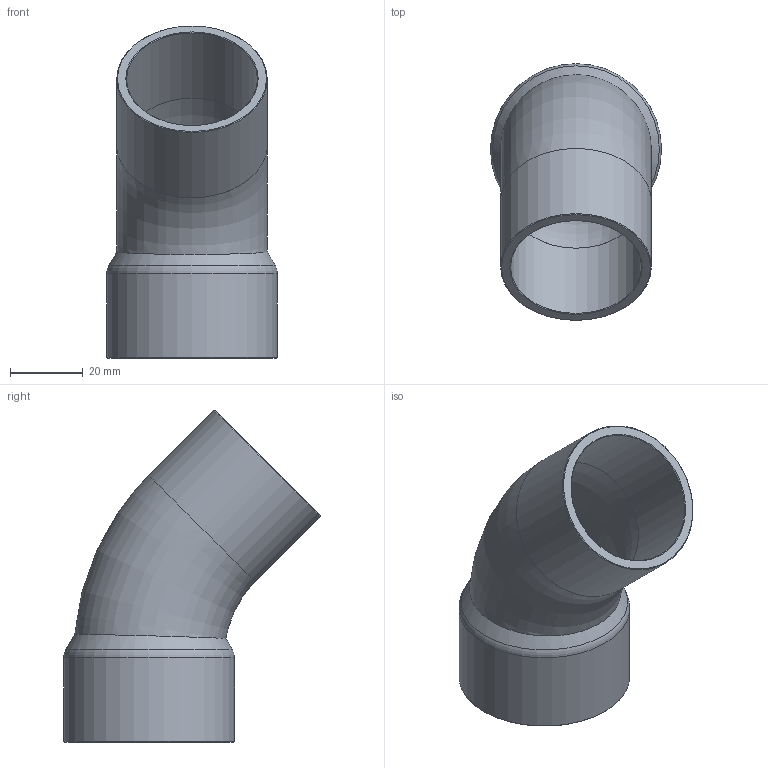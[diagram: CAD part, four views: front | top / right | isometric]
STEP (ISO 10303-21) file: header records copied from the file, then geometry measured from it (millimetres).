
FILE_DESCRIPTION((''),'2;1');
FILE_NAME('G:\SANHA-Ternat\Technik\Management\Bouwmaten + markeringen\z-maattekeningen 3D\29000s\29040158_3d.stp','2017-07-26T14:33:04',('vdvijverd'),(''),'Autodesk Inventor 2009','Autodesk Inventor 2009','');
FILE_SCHEMA(('AUTOMOTIVE_DESIGN { 1 0 10303 214 1 1 1 1 }'));
Length unit declared in the file: millimetre
Products named in the file (1): 29040158_3d
Bounding box: 46.85 x 70.41 x 90.98 mm (x, y, z)
Volume: 30229.6 mm3; surface area: 23040 mm2
Topology: 1 solids, 1 shells, 18 faces, 34 edges, 20 vertices
Faces by surface type: cone 6, plane 4, cylinder 4, torus 3, bspline 1
Full cylindrical faces by diameter (mm): 35.875 x1, 41.275 x1, 41.455 x1, 46.855 x1
Entity records: 504 total; most frequent: CARTESIAN_POINT 175, DIRECTION 68, ORIENTED_EDGE 36, EDGE_LOOP 36, AXIS2_PLACEMENT_3D 34, VERTEX_POINT 18, EDGE_CURVE 18, FACE_OUTER_BOUND 18
